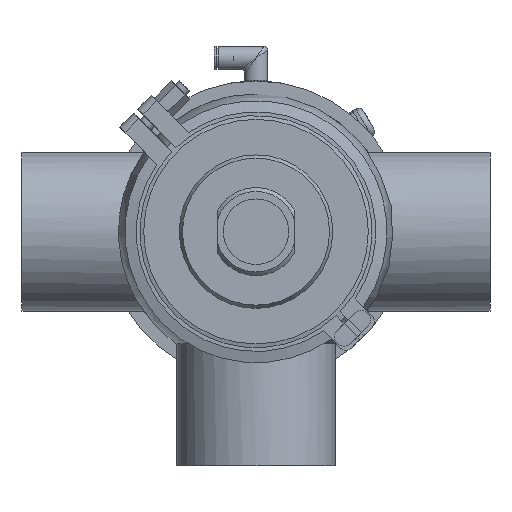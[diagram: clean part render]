
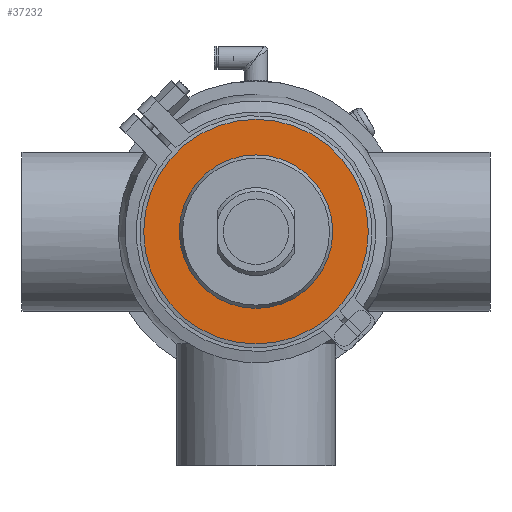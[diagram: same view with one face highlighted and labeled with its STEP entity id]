
A CAD part, front view. The second image highlights one B-rep face of the part: STEP entity #37232.
In plain terms, the highlighted planar face has unit normal (0, -1, 0).
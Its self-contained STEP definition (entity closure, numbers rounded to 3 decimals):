
#7828 = EDGE_CURVE ( 'NONE', #23674, #23674, #35794, .T. ) ;
#8037 = ORIENTED_EDGE ( 'NONE', *, *, #59513, .T. ) ;
#9297 = EDGE_LOOP ( 'NONE', ( #8037 ) ) ;
#12292 = PLANE ( 'NONE',  #43547 ) ;
#14239 = CIRCLE ( 'NONE', #35541, 41. ) ;
#16613 = DIRECTION ( 'NONE',  ( 0., 0., 1. ) ) ;
#23674 = VERTEX_POINT ( 'NONE', #38300 ) ;
#27487 = DIRECTION ( 'NONE',  ( 0., 0., -1. ) ) ;
#29888 = DIRECTION ( 'NONE',  ( 0., 1., 0. ) ) ;
#31964 = DIRECTION ( 'NONE',  ( 0., -1., 0. ) ) ;
#32629 = CARTESIAN_POINT ( 'NONE',  ( -60., -13., 0. ) ) ;
#33336 = DIRECTION ( 'NONE',  ( 0., 1., 0. ) ) ;
#35541 = AXIS2_PLACEMENT_3D ( 'NONE', #56550, #33336, #16613 ) ;
#35794 = CIRCLE ( 'NONE', #51045, 60. ) ;
#37232 = ADVANCED_FACE ( 'NONE', ( #56059, #56685 ), #12292, .T. ) ;
#38300 = CARTESIAN_POINT ( 'NONE',  ( 0., -13., 60. ) ) ;
#39553 = VERTEX_POINT ( 'NONE', #40814 ) ;
#40814 = CARTESIAN_POINT ( 'NONE',  ( 0., -13., 41. ) ) ;
#43547 = AXIS2_PLACEMENT_3D ( 'NONE', #32629, #31964, #27487 ) ;
#44858 = CARTESIAN_POINT ( 'NONE',  ( 0., -13., 0. ) ) ;
#47696 = ORIENTED_EDGE ( 'NONE', *, *, #7828, .F. ) ;
#49318 = DIRECTION ( 'NONE',  ( 0., 0., 1. ) ) ;
#51045 = AXIS2_PLACEMENT_3D ( 'NONE', #44858, #29888, #49318 ) ;
#56059 = FACE_BOUND ( 'NONE', #9297, .T. ) ;
#56550 = CARTESIAN_POINT ( 'NONE',  ( 0., -13., 0. ) ) ;
#56685 = FACE_OUTER_BOUND ( 'NONE', #58422, .T. ) ;
#58422 = EDGE_LOOP ( 'NONE', ( #47696 ) ) ;
#59513 = EDGE_CURVE ( 'NONE', #39553, #39553, #14239, .T. ) ;
